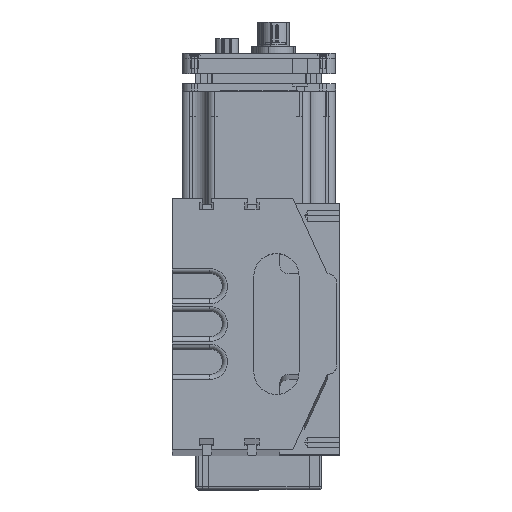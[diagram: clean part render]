
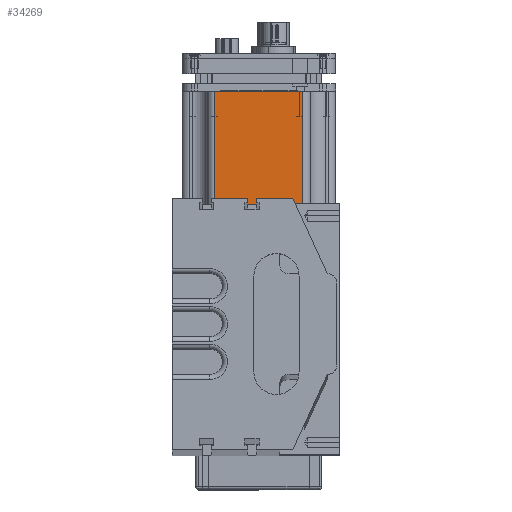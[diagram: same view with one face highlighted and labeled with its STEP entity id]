
A CAD part, top view. The second image highlights one B-rep face of the part: STEP entity #34269.
In plain terms, the highlighted planar face has unit normal (0, 0, 1).
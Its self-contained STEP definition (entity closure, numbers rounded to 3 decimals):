
#4101 = VERTEX_POINT ( 'NONE', #11030 ) ;
#4163 = VERTEX_POINT ( 'NONE', #11326 ) ;
#4206 = EDGE_CURVE ( 'NONE', #4101, #4163, #11449, .T. ) ;
#4472 = VERTEX_POINT ( 'NONE', #12435 ) ;
#4550 = EDGE_CURVE ( 'NONE', #4472, #4101, #12772, .T. ) ;
#11030 = CARTESIAN_POINT ( 'NONE',  ( -24.5, 7., 30.5 ) ) ;
#11326 = CARTESIAN_POINT ( 'NONE',  ( -17.5, 7., 30.5 ) ) ;
#11337 = DIRECTION ( 'NONE',  ( 1., 0., 0. ) ) ;
#11338 = VECTOR ( 'NONE', #11337, 1000. ) ;
#11448 = CARTESIAN_POINT ( 'NONE',  ( -24.5, 7., 30.5 ) ) ;
#11449 = LINE ( 'NONE', #11448, #11338 ) ;
#12435 = CARTESIAN_POINT ( 'NONE',  ( -24.5, 0., 30.5 ) ) ;
#12759 = DIRECTION ( 'NONE',  ( 0., 1., 0. ) ) ;
#12760 = VECTOR ( 'NONE', #12759, 1000. ) ;
#12761 = CARTESIAN_POINT ( 'NONE',  ( -24.5, 7., 30.5 ) ) ;
#12772 = LINE ( 'NONE', #12761, #12760 ) ;
#21058 = DIRECTION ( 'NONE',  ( 0., -1., 0. ) ) ;
#21059 = VECTOR ( 'NONE', #21058, 1000. ) ;
#21060 = CARTESIAN_POINT ( 'NONE',  ( 24.5, 7., 30.5 ) ) ;
#21069 = LINE ( 'NONE', #21060, #21059 ) ;
#21124 = DIRECTION ( 'NONE',  ( 1., 0., 0. ) ) ;
#21126 = VECTOR ( 'NONE', #21124, 1000. ) ;
#21127 = CARTESIAN_POINT ( 'NONE',  ( -24.5, 0., 30.5 ) ) ;
#21145 = CARTESIAN_POINT ( 'NONE',  ( 24.5, 7., 30.5 ) ) ;
#21146 = LINE ( 'NONE', #21127, #21126 ) ;
#21299 = CARTESIAN_POINT ( 'NONE',  ( 24.5, 0., 30.5 ) ) ;
#21333 = CARTESIAN_POINT ( 'NONE',  ( 17.5, 94., 30.5 ) ) ;
#21393 = DIRECTION ( 'NONE',  ( 1., 0., 0. ) ) ;
#21394 = VECTOR ( 'NONE', #21393, 1000. ) ;
#21395 = CARTESIAN_POINT ( 'NONE',  ( 26.5, 94., 30.5 ) ) ;
#21401 = LINE ( 'NONE', #21395, #21394 ) ;
#21752 = LINE ( 'NONE', #21754, #21813 ) ;
#21754 = CARTESIAN_POINT ( 'NONE',  ( -17.5, 7., 30.5 ) ) ;
#21759 = CARTESIAN_POINT ( 'NONE',  ( 17.5, 7., 30.5 ) ) ;
#21761 = DIRECTION ( 'NONE',  ( 0., -1., 0. ) ) ;
#21763 = VECTOR ( 'NONE', #21761, 1000. ) ;
#21764 = CARTESIAN_POINT ( 'NONE',  ( 17.5, 95.35, 30.5 ) ) ;
#21765 = LINE ( 'NONE', #21764, #21763 ) ;
#21767 = DIRECTION ( 'NONE',  ( 1., 0., 0. ) ) ;
#21768 = VECTOR ( 'NONE', #21767, 1000. ) ;
#21769 = CARTESIAN_POINT ( 'NONE',  ( -24.5, 7., 30.5 ) ) ;
#21770 = LINE ( 'NONE', #21769, #21768 ) ;
#21790 = PLANE ( 'NONE',  #21850 ) ;
#21801 = FACE_OUTER_BOUND ( 'NONE', #34297, .T. ) ;
#21812 = DIRECTION ( 'NONE',  ( 0., 1., 0. ) ) ;
#21813 = VECTOR ( 'NONE', #21812, 1000. ) ;
#21832 = DIRECTION ( 'NONE',  ( -1., 0., 0. ) ) ;
#21834 = DIRECTION ( 'NONE',  ( 0., 0., -1. ) ) ;
#21842 = CARTESIAN_POINT ( 'NONE',  ( -24.5, 7., 30.5 ) ) ;
#21850 = AXIS2_PLACEMENT_3D ( 'NONE', #21842, #21834, #21832 ) ;
#21871 = CARTESIAN_POINT ( 'NONE',  ( -17.5, 94., 30.5 ) ) ;
#31768 = EDGE_CURVE ( 'NONE', #32044, #32397, #21069, .T. ) ;
#32044 = VERTEX_POINT ( 'NONE', #21145 ) ;
#32055 = EDGE_CURVE ( 'NONE', #4472, #32397, #21146, .T. ) ;
#32226 = ORIENTED_EDGE ( 'NONE', *, *, #32055, .T. ) ;
#32397 = VERTEX_POINT ( 'NONE', #21299 ) ;
#32460 = ORIENTED_EDGE ( 'NONE', *, *, #4550, .F. ) ;
#32612 = VERTEX_POINT ( 'NONE', #21333 ) ;
#32901 = EDGE_CURVE ( 'NONE', #34353, #32612, #21401, .T. ) ;
#33125 = ORIENTED_EDGE ( 'NONE', *, *, #34148, .F. ) ;
#34118 = ORIENTED_EDGE ( 'NONE', *, *, #31768, .F. ) ;
#34120 = EDGE_CURVE ( 'NONE', #34156, #32044, #21770, .T. ) ;
#34138 = ORIENTED_EDGE ( 'NONE', *, *, #32901, .F. ) ;
#34148 = EDGE_CURVE ( 'NONE', #32612, #34156, #21765, .T. ) ;
#34156 = VERTEX_POINT ( 'NONE', #21759 ) ;
#34172 = EDGE_CURVE ( 'NONE', #4163, #34353, #21752, .T. ) ;
#34204 = ORIENTED_EDGE ( 'NONE', *, *, #34172, .F. ) ;
#34219 = ORIENTED_EDGE ( 'NONE', *, *, #4206, .F. ) ;
#34265 = ORIENTED_EDGE ( 'NONE', *, *, #34120, .F. ) ;
#34269 = ADVANCED_FACE ( 'NONE', ( #21801 ), #21790, .F. ) ;
#34297 = EDGE_LOOP ( 'NONE', ( #34204, #34219, #32460, #32226, #34118, #34265, #33125, #34138 ) ) ;
#34353 = VERTEX_POINT ( 'NONE', #21871 ) ;
